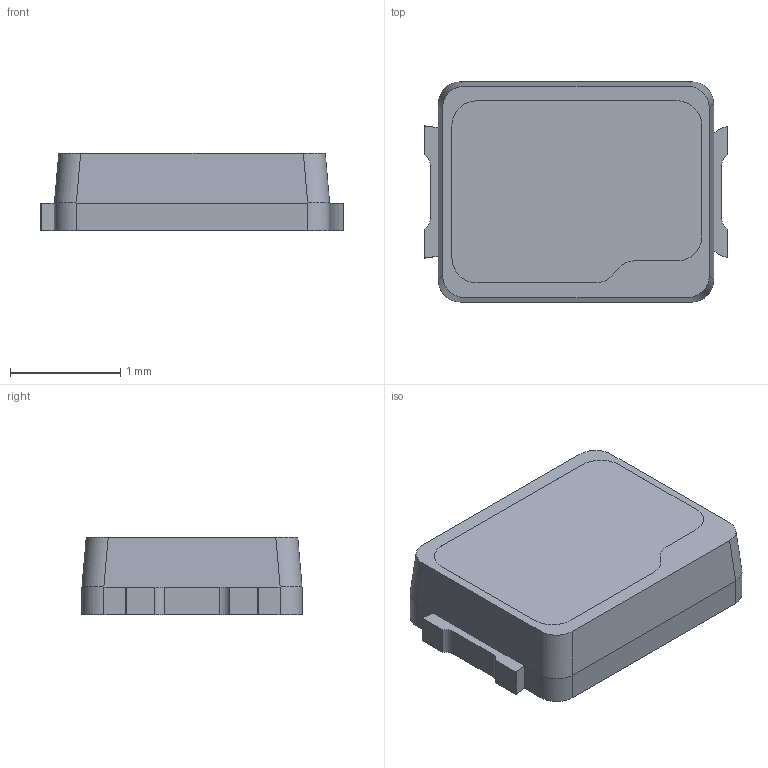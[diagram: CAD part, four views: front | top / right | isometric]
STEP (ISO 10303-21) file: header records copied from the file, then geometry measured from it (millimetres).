
FILE_DESCRIPTION (( 'STEP AP214' ), '1' );
FILE_NAME ('LWNB.STEP', '2025-03-22T10:59:02', ( '' ), ( '' ), 'SwSTEP 2.0', 'SolidWorks 2022', '' );
FILE_SCHEMA (( 'AUTOMOTIVE_DESIGN' ));
Length unit declared in the file: millimetre
Products named in the file (1): LWNB
Bounding box: 2.75 x 2 x 0.7 mm (x, y, z)
Volume: 3.5 mm3; surface area: 27 mm2
Topology: 3 solids, 3 shells, 183 faces, 524 edges, 348 vertices
Faces by surface type: plane 119, cylinder 58, bspline 6
Entity records: 6167 total; most frequent: CARTESIAN_POINT 1182, ORIENTED_EDGE 1048, DIRECTION 960, EDGE_CURVE 524, LINE 388, VECTOR 388, VERTEX_POINT 348, AXIS2_PLACEMENT_3D 286
